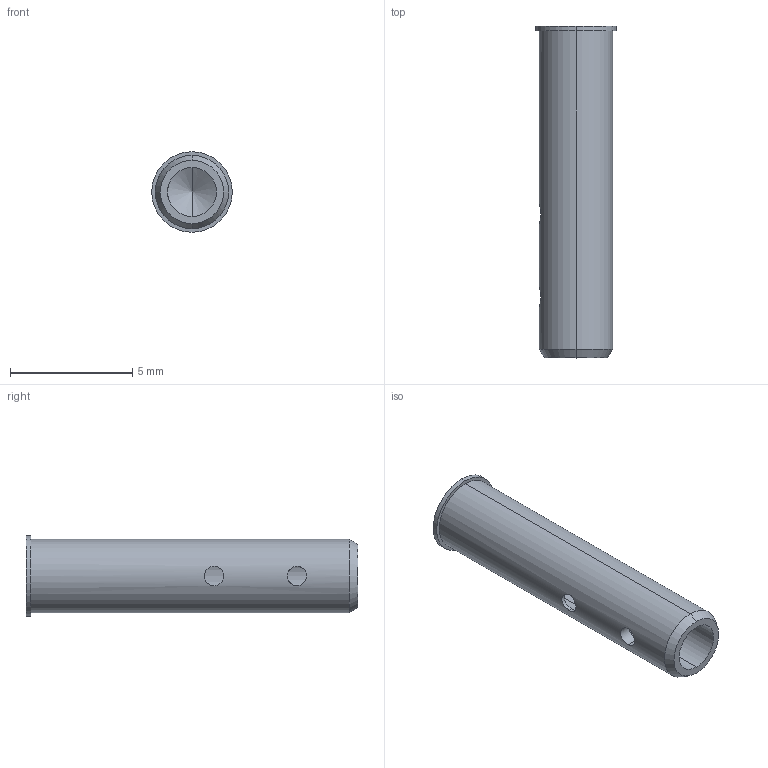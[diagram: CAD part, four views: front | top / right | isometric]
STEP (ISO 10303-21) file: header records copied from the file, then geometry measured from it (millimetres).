
FILE_DESCRIPTION (( 'STEP AP214' ), '1' );
FILE_NAME ('RC8S.STEP', '2025-02-11T13:44:47', ( '' ), ( '' ), 'SwSTEP 2.0', 'SolidWorks 2024', '' );
FILE_SCHEMA (( 'AUTOMOTIVE_DESIGN' ));
Length unit declared in the file: millimetre
Products named in the file (1): RC8S
Bounding box: 3.3 x 13.6 x 3.3 mm (x, y, z)
Volume: 37.1 mm3; surface area: 233.6 mm2
Topology: 1 solids, 1 shells, 21 faces, 50 edges, 29 vertices
Faces by surface type: cylinder 12, cone 6, plane 3
Entity records: 665 total; most frequent: CARTESIAN_POINT 170, DIRECTION 100, ORIENTED_EDGE 92, EDGE_CURVE 46, AXIS2_PLACEMENT_3D 41, VERTEX_POINT 29, EDGE_LOOP 27, FACE_OUTER_BOUND 21
